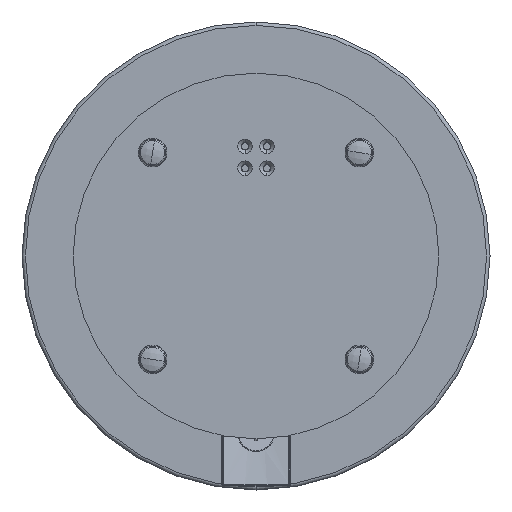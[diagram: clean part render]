
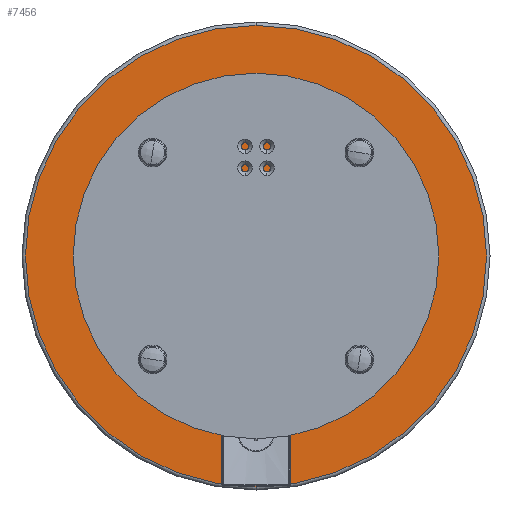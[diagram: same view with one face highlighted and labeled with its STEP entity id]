
A CAD part, front view. The second image highlights one B-rep face of the part: STEP entity #7456.
In plain terms, the highlighted planar face has unit normal (0, -1, 0).
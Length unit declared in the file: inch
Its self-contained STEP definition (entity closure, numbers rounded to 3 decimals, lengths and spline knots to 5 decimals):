
#184 = DIRECTION ( 'NONE',  ( 0., 1., 0. ) ) ;
#1927 = CARTESIAN_POINT ( 'NONE',  ( 0., 0., 0. ) ) ;
#2361 = EDGE_CURVE ( 'NONE', #3054, #5318, #3465, .T. ) ;
#2472 = EDGE_LOOP ( 'NONE', ( #4069, #5545 ) ) ;
#3054 = VERTEX_POINT ( 'NONE', #3624 ) ;
#3406 = EDGE_CURVE ( 'NONE', #5318, #3054, #6886, .T. ) ;
#3465 = CIRCLE ( 'NONE', #7307, 7.88189 ) ;
#3624 = CARTESIAN_POINT ( 'NONE',  ( 0., 0., -7.88189 ) ) ;
#3939 = PLANE ( 'NONE',  #7354 ) ;
#4067 = FACE_OUTER_BOUND ( 'NONE', #2472, .T. ) ;
#4069 = ORIENTED_EDGE ( 'NONE', *, *, #3406, .F. ) ;
#4955 = DIRECTION ( 'NONE',  ( 0., 0., 1. ) ) ;
#5073 = DIRECTION ( 'NONE',  ( 0., 0., 1. ) ) ;
#5318 = VERTEX_POINT ( 'NONE', #10694 ) ;
#5545 = ORIENTED_EDGE ( 'NONE', *, *, #2361, .F. ) ;
#6886 = CIRCLE ( 'NONE', #7087, 7.88189 ) ;
#7087 = AXIS2_PLACEMENT_3D ( 'NONE', #8867, #184, #5073 ) ;
#7307 = AXIS2_PLACEMENT_3D ( 'NONE', #1927, #12520, #11496 ) ;
#7354 = AXIS2_PLACEMENT_3D ( 'NONE', #11613, #9823, #4955 ) ;
#7456 = ADVANCED_FACE ( 'NONE', ( #4067 ), #3939, .F. ) ;
#8867 = CARTESIAN_POINT ( 'NONE',  ( 0., 0., 0. ) ) ;
#9823 = DIRECTION ( 'NONE',  ( 0., 1., 0. ) ) ;
#10694 = CARTESIAN_POINT ( 'NONE',  ( 0., 0., 7.88189 ) ) ;
#11496 = DIRECTION ( 'NONE',  ( 0., 0., 1. ) ) ;
#11613 = CARTESIAN_POINT ( 'NONE',  ( 0., 0., 0. ) ) ;
#12520 = DIRECTION ( 'NONE',  ( 0., 1., 0. ) ) ;
